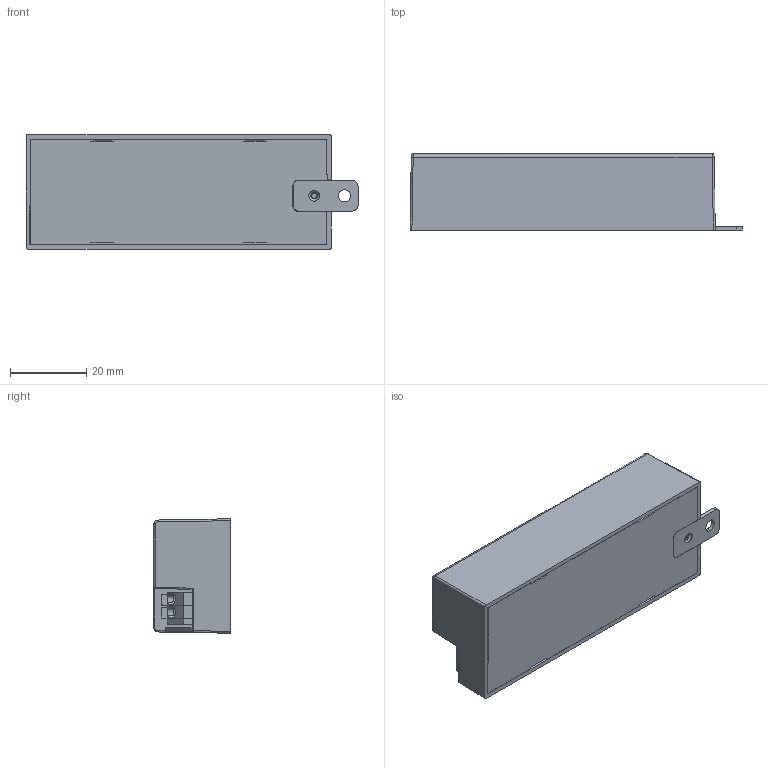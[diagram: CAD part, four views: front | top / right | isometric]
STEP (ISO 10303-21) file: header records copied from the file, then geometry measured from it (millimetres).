
FILE_DESCRIPTION (( 'STEP AP203' ), '1' );
FILE_NAME ('Mini_10_cs.STEP', '2018-08-10T06:18:33', ( '' ), ( '' ), 'SwSTEP 2.0', 'SolidWorks 2017', '' );
FILE_SCHEMA (( 'CONFIG_CONTROL_DESIGN' ));
Length unit declared in the file: millimetre
Products named in the file (33): 041_DO214AA_SMB_SMD_Standard; mini_pcb10W_1120; 023_105040_0750_L05_100060_0750_L06; 075_JUMPER_1000_L06; 031_0805_SMD_Res; housing_10w; Mini_10_cs; 023_103053_0750_L05_100040; 041_SOD323_SMD_Standard; 1Q1-3644154-00; code switch_2p; 021_000055_0200_L05_Standard; wago_250-10X_2p; mnt_plate; emi_ee10; Y_cap_1000_023_L06_pin1000_00; 021_000085_0500_L06_000085_0350_L05; 011_1206_SMD_Res; mov_7x4_5x3; transformer_e13; 041_DO213AA_SOD80_SMD_Standard; 024_1206_SMD_Cap; wago_250-10X_input_2p_2p; choke_e13; 024_0805_SMD_Cap; 011_0603_SMD_Res; L_color_coade; choke_e10_emi; 041_DO214AC_SMA_SMD_Standard; 022_0603_SMD_S-1; pcb_mini10_0111; 041_TO92_L07_KGA_A_P_050; 061_SOT23-5_095_0305_SMD_SOT23-6
Assembly tree (59 placements, depth 3):
  Mini_10_cs
    housing_10w
    1Q1-3644154-00
    mnt_plate
    mini_pcb10W_1120
      011_1206_SMD_Res
      024_1206_SMD_Cap
      011_0603_SMD_Res  x9
      022_0603_SMD_S-1  x2
      041_DO214AA_SMB_SMD_Standard  x2
      031_0805_SMD_Res  x9
      041_SOD323_SMD_Standard  x2
      wago_250-10X_2p
      021_000085_0500_L06_000085_0350_L05
      041_DO213AA_SOD80_SMD_Standard
      024_0805_SMD_Cap
      041_DO214AC_SMA_SMD_Standard  x6
      061_SOT23-5_095_0305_SMD_SOT23-6
      075_JUMPER_1000_L06
      021_000055_0200_L05_Standard
      Y_cap_1000_023_L06_pin1000_00
      transformer_e13
      choke_e13
      choke_e10_emi
      041_TO92_L07_KGA_A_P_050  x2
      023_105040_0750_L05_100060_0750_L06  x2
      023_103053_0750_L05_100040  x2
      code switch_2p
      emi_ee10
      mov_7x4_5x3
      wago_250-10X_input_2p_2p
      L_color_coade
      pcb_mini10_0111
Bounding box: 87 x 20 x 30 mm (x, y, z)
Volume: 23827.7 mm3; surface area: 39014 mm2
Topology: 89 solids, 89 shells, 2670 faces, 6533 edges, 3933 vertices
Faces by surface type: plane 1537, cylinder 802, sphere 200, torus 73, cone 30, bspline 28
Entity records: 55966 total; most frequent: CARTESIAN_POINT 10425, DIRECTION 8659, ORIENTED_EDGE 8434, EDGE_CURVE 4217, LINE 3005, VECTOR 3005, AXIS2_PLACEMENT_3D 2827, VERTEX_POINT 2693
